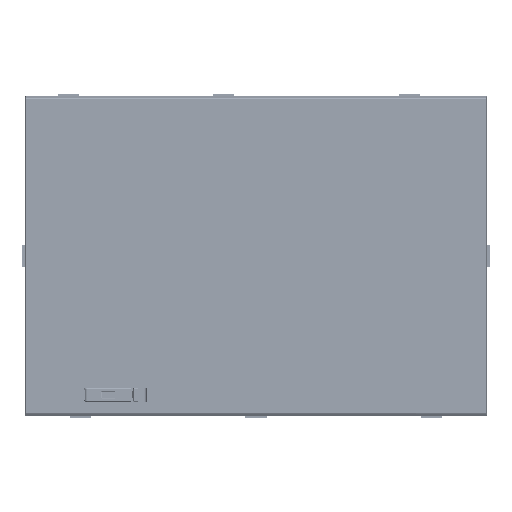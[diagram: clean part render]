
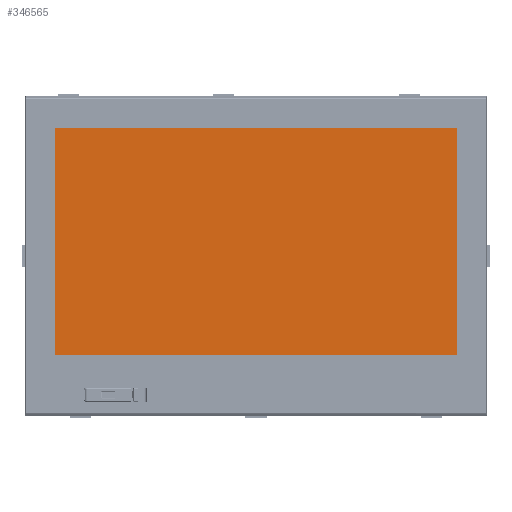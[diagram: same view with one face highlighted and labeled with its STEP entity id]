
A CAD part, top view. The second image highlights one B-rep face of the part: STEP entity #346565.
In plain terms, the highlighted planar face has unit normal (0, 0, 1).
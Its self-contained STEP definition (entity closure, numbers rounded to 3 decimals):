
#133357=DIRECTION('',(0.,-1.,0.));
#133358=VECTOR('',#133357,194.6);
#133359=CARTESIAN_POINT('',(-172.6,109.745,-0.1));
#133360=LINE('',#133359,#133358);
#133369=DIRECTION('',(-1.,0.,0.));
#133370=VECTOR('',#133369,345.2);
#133371=CARTESIAN_POINT('',(172.6,109.745,-0.1));
#133372=LINE('',#133371,#133370);
#133381=DIRECTION('',(0.,1.,0.));
#133382=VECTOR('',#133381,194.6);
#133383=CARTESIAN_POINT('',(172.6,-84.855,-0.1));
#133384=LINE('',#133383,#133382);
#133393=DIRECTION('',(1.,0.,0.));
#133394=VECTOR('',#133393,345.2);
#133395=CARTESIAN_POINT('',(-172.6,-84.855,-0.1));
#133396=LINE('',#133395,#133394);
#169019=CARTESIAN_POINT('',(-172.6,109.745,-0.1));
#169020=VERTEX_POINT('',#169019);
#169021=CARTESIAN_POINT('',(-172.6,-84.855,-0.1));
#169022=VERTEX_POINT('',#169021);
#169023=CARTESIAN_POINT('',(172.6,109.745,-0.1));
#169024=VERTEX_POINT('',#169023);
#169025=CARTESIAN_POINT('',(172.6,-84.855,-0.1));
#169026=VERTEX_POINT('',#169025);
#346554=CARTESIAN_POINT('',(0.,0.,-0.1));
#346555=DIRECTION('',(0.,0.,1.));
#346556=DIRECTION('',(1.,0.,0.));
#346557=AXIS2_PLACEMENT_3D('',#346554,#346555,#346556);
#346558=PLANE('',#346557);
#346559=ORIENTED_EDGE('',*,*,#346506,.F.);
#346560=ORIENTED_EDGE('',*,*,#346521,.F.);
#346561=ORIENTED_EDGE('',*,*,#346535,.F.);
#346562=ORIENTED_EDGE('',*,*,#346548,.F.);
#346563=EDGE_LOOP('',(#346559,#346560,#346561,#346562));
#346564=FACE_OUTER_BOUND('',#346563,.F.);
#346565=ADVANCED_FACE('',(#346564),#346558,.T.);
#346506=EDGE_CURVE('',#169020,#169022,#133360,.T.);
#346521=EDGE_CURVE('',#169024,#169020,#133372,.T.);
#346535=EDGE_CURVE('',#169026,#169024,#133384,.T.);
#346548=EDGE_CURVE('',#169022,#169026,#133396,.T.);
